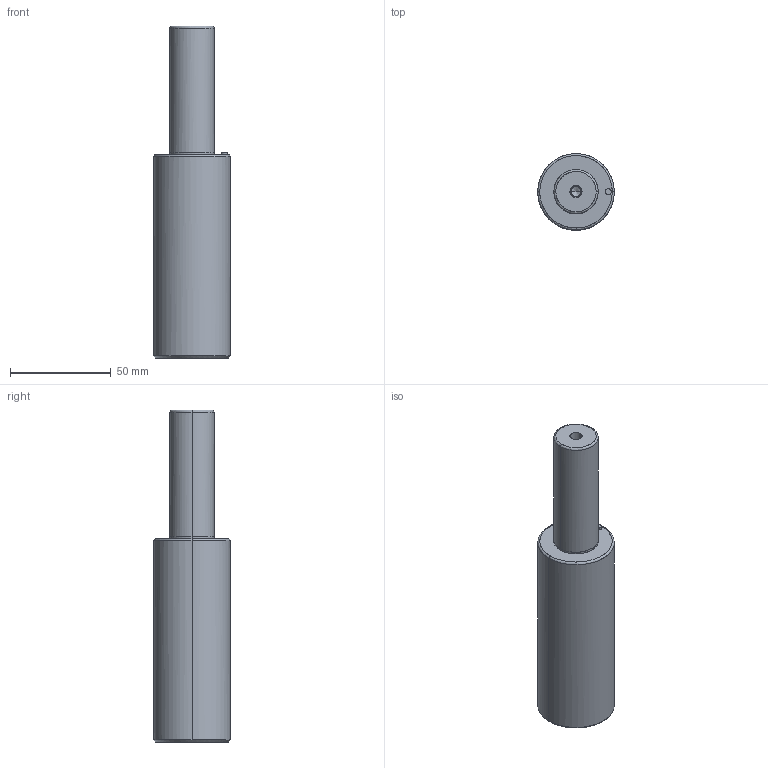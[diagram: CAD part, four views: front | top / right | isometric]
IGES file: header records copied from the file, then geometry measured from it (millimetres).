
Global section: file name: E:\UnigraphicsGraphicData\MISUMI_PRESS-PARTS\IGES\3d_gsc38-63_03832_r00.igs; native system: NX V5.0; preprocessor: UGS NX IGES V5.0; author: MISUMI; date: 20110105.160748; units: millimetre
Bounding box: 38 x 37.97 x 165 mm (x, y, z)
Surface area: 19199 mm2 (no closed solid volume)
Topology: 0 solids, 0 shells, 32 faces, 216 edges, 212 vertices
Faces by surface type: bspline 32
